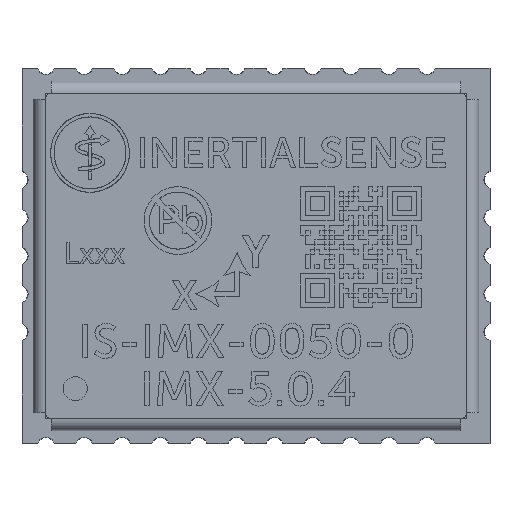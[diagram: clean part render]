
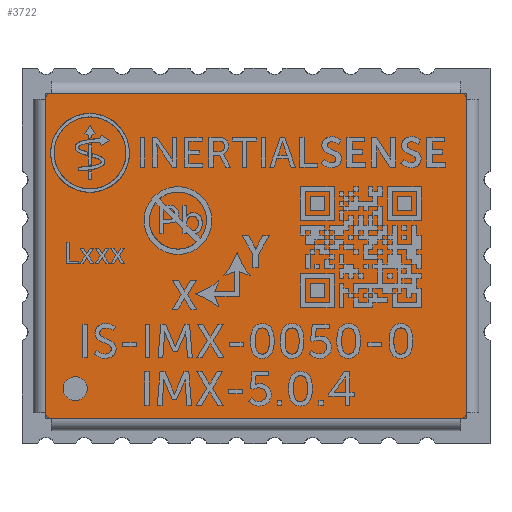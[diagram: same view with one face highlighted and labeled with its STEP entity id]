
A CAD part, top view. The second image highlights one B-rep face of the part: STEP entity #3722.
In plain terms, the highlighted planar face has unit normal (0, 0, 1).
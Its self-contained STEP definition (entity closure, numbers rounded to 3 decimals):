
#2697 = VERTEX_POINT('',#2698);
#2698 = CARTESIAN_POINT('',(-5.437,6.84,1.6));
#2784 = VERTEX_POINT('',#2785);
#2785 = CARTESIAN_POINT('',(-5.237,7.04,1.6));
#2860 = VERTEX_POINT('',#2861);
#2861 = CARTESIAN_POINT('',(5.213,7.04,1.6));
#2949 = VERTEX_POINT('',#2950);
#2950 = CARTESIAN_POINT('',(5.413,6.84,1.6));
#3027 = VERTEX_POINT('',#3028);
#3028 = CARTESIAN_POINT('',(-5.237,-7.01,1.6));
#3114 = VERTEX_POINT('',#3115);
#3115 = CARTESIAN_POINT('',(-5.437,-6.81,1.6));
#3192 = VERTEX_POINT('',#3193);
#3193 = CARTESIAN_POINT('',(5.413,-6.81,1.6));
#3279 = VERTEX_POINT('',#3280);
#3280 = CARTESIAN_POINT('',(5.213,-7.01,1.6));
#3489 = VERTEX_POINT('',#3490);
#3490 = CARTESIAN_POINT('',(-4.037,6.04,1.6));
#3506 = EDGE_CURVE('',#3489,#3489,#3507,.T.);
#3507 = CIRCLE('',#3508,0.4);
#3508 = AXIS2_PLACEMENT_3D('',#3509,#3510,#3511);
#3509 = CARTESIAN_POINT('',(-4.437,6.04,1.6));
#3510 = DIRECTION('',(0.,0.,-1.));
#3511 = DIRECTION('',(-1.,0.,0.));
#3529 = EDGE_CURVE('',#2784,#2860,#3530,.T.);
#3530 = LINE('',#3531,#3532);
#3531 = CARTESIAN_POINT('',(2.601,7.04,1.6));
#3532 = VECTOR('',#3533,1.);
#3533 = DIRECTION('',(1.,0.,0.));
#3544 = EDGE_CURVE('',#2697,#2784,#3545,.T.);
#3545 = CIRCLE('',#3546,0.2);
#3546 = AXIS2_PLACEMENT_3D('',#3547,#3548,#3549);
#3547 = CARTESIAN_POINT('',(-5.237,6.84,1.6));
#3548 = DIRECTION('',(0.,0.,-1.));
#3549 = DIRECTION('',(-0.707,0.707,0.));
#3566 = EDGE_CURVE('',#3114,#2697,#3567,.T.);
#3567 = LINE('',#3568,#3569);
#3568 = CARTESIAN_POINT('',(-5.437,3.427,1.6));
#3569 = VECTOR('',#3570,1.);
#3570 = DIRECTION('',(0.,1.,0.));
#3588 = EDGE_CURVE('',#3027,#3114,#3589,.T.);
#3589 = CIRCLE('',#3590,0.2);
#3590 = AXIS2_PLACEMENT_3D('',#3591,#3592,#3593);
#3591 = CARTESIAN_POINT('',(-5.237,-6.81,1.6));
#3592 = DIRECTION('',(0.,0.,-1.));
#3593 = DIRECTION('',(-0.707,-0.707,-0.));
#3610 = EDGE_CURVE('',#3279,#3027,#3611,.T.);
#3611 = LINE('',#3612,#3613);
#3612 = CARTESIAN_POINT('',(-2.624,-7.01,1.6));
#3613 = VECTOR('',#3614,1.);
#3614 = DIRECTION('',(-1.,0.,0.));
#3632 = EDGE_CURVE('',#3192,#3279,#3633,.T.);
#3633 = CIRCLE('',#3634,0.2);
#3634 = AXIS2_PLACEMENT_3D('',#3635,#3636,#3637);
#3635 = CARTESIAN_POINT('',(5.213,-6.81,1.6));
#3636 = DIRECTION('',(0.,0.,-1.));
#3637 = DIRECTION('',(0.707,-0.707,0.));
#3654 = EDGE_CURVE('',#2949,#3192,#3655,.T.);
#3655 = LINE('',#3656,#3657);
#3656 = CARTESIAN_POINT('',(5.413,-3.398,1.6));
#3657 = VECTOR('',#3658,1.);
#3658 = DIRECTION('',(0.,-1.,0.));
#3676 = EDGE_CURVE('',#2860,#2949,#3677,.T.);
#3677 = CIRCLE('',#3678,0.2);
#3678 = AXIS2_PLACEMENT_3D('',#3679,#3680,#3681);
#3679 = CARTESIAN_POINT('',(5.213,6.84,1.6));
#3680 = DIRECTION('',(0.,0.,-1.));
#3681 = DIRECTION('',(0.707,0.707,0.));
#3722 = ADVANCED_FACE('',(#3723,#3733),#3736,.T.);
#3723 = FACE_BOUND('',#3724,.T.);
#3724 = EDGE_LOOP('',(#3725,#3726,#3727,#3728,#3729,#3730,#3731,#3732));
#3725 = ORIENTED_EDGE('',*,*,#3529,.F.);
#3726 = ORIENTED_EDGE('',*,*,#3544,.F.);
#3727 = ORIENTED_EDGE('',*,*,#3566,.F.);
#3728 = ORIENTED_EDGE('',*,*,#3588,.F.);
#3729 = ORIENTED_EDGE('',*,*,#3610,.F.);
#3730 = ORIENTED_EDGE('',*,*,#3632,.F.);
#3731 = ORIENTED_EDGE('',*,*,#3654,.F.);
#3732 = ORIENTED_EDGE('',*,*,#3676,.F.);
#3733 = FACE_BOUND('',#3734,.T.);
#3734 = EDGE_LOOP('',(#3735));
#3735 = ORIENTED_EDGE('',*,*,#3506,.T.);
#3736 = PLANE('',#3737);
#3737 = AXIS2_PLACEMENT_3D('',#3738,#3739,#3740);
#3738 = CARTESIAN_POINT('',(-0.012,0.015,1.6)
  );
#3739 = DIRECTION('',(0.,0.,1.));
#3740 = DIRECTION('',(-1.,0.,0.));
